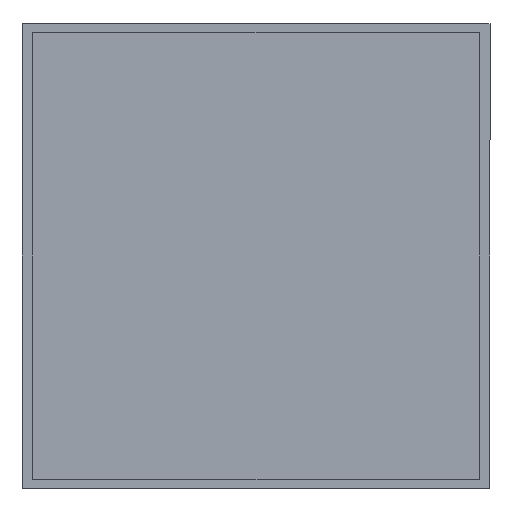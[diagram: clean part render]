
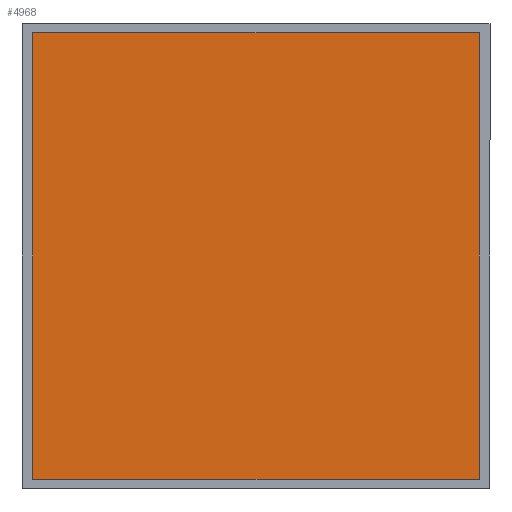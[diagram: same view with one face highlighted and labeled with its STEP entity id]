
A CAD part, front view. The second image highlights one B-rep face of the part: STEP entity #4968.
In plain terms, the highlighted planar face has unit normal (0, -1, 0).
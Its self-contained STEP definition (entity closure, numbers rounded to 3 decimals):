
#249 = DIRECTION ( 'NONE',  ( -1., 0., 0. ) ) ;
#351 = LINE ( 'NONE', #4686, #6628 ) ;
#388 = PLANE ( 'NONE',  #2022 ) ;
#883 = ORIENTED_EDGE ( 'NONE', *, *, #2863, .F. ) ;
#1499 = CARTESIAN_POINT ( 'NONE',  ( 24.524, -2.324, -20.423 ) ) ;
#1851 = LINE ( 'NONE', #5286, #6497 ) ;
#1990 = ORIENTED_EDGE ( 'NONE', *, *, #5935, .F. ) ;
#1998 = ORIENTED_EDGE ( 'NONE', *, *, #3328, .F. ) ;
#2022 = AXIS2_PLACEMENT_3D ( 'NONE', #6174, #3927, #3480 ) ;
#2455 = DIRECTION ( 'NONE',  ( 1., 0., 0. ) ) ;
#2560 = DIRECTION ( 'NONE',  ( 0., 0., -1. ) ) ;
#2677 = LINE ( 'NONE', #1499, #4859 ) ;
#2687 = CARTESIAN_POINT ( 'NONE',  ( -13.476, -2.324, -20.423 ) ) ;
#2832 = CARTESIAN_POINT ( 'NONE',  ( -13.476, -2.324, 17.577 ) ) ;
#2863 = EDGE_CURVE ( 'NONE', #6054, #6149, #6106, .T. ) ;
#3328 = EDGE_CURVE ( 'NONE', #6149, #5604, #351, .T. ) ;
#3480 = DIRECTION ( 'NONE',  ( 0., 0., 1. ) ) ;
#3585 = EDGE_CURVE ( 'NONE', #5604, #3845, #2677, .T. ) ;
#3845 = VERTEX_POINT ( 'NONE', #4148 ) ;
#3927 = DIRECTION ( 'NONE',  ( 0., 1., 0. ) ) ;
#4148 = CARTESIAN_POINT ( 'NONE',  ( 24.524, -2.324, -20.423 ) ) ;
#4292 = FACE_OUTER_BOUND ( 'NONE', #4963, .T. ) ;
#4492 = CARTESIAN_POINT ( 'NONE',  ( -13.476, -2.324, -20.423 ) ) ;
#4686 = CARTESIAN_POINT ( 'NONE',  ( -13.476, -2.324, 17.577 ) ) ;
#4859 = VECTOR ( 'NONE', #2560, 1000. ) ;
#4963 = EDGE_LOOP ( 'NONE', ( #883, #1990, #6015, #1998 ) ) ;
#4968 = ADVANCED_FACE ( 'NONE', ( #4292 ), #388, .F. ) ;
#5082 = DIRECTION ( 'NONE',  ( 0., 0., 1. ) ) ;
#5286 = CARTESIAN_POINT ( 'NONE',  ( -13.476, -2.324, -20.423 ) ) ;
#5504 = CARTESIAN_POINT ( 'NONE',  ( 24.524, -2.324, 17.577 ) ) ;
#5550 = VECTOR ( 'NONE', #5082, 1000. ) ;
#5604 = VERTEX_POINT ( 'NONE', #5504 ) ;
#5935 = EDGE_CURVE ( 'NONE', #3845, #6054, #1851, .T. ) ;
#6015 = ORIENTED_EDGE ( 'NONE', *, *, #3585, .F. ) ;
#6054 = VERTEX_POINT ( 'NONE', #2687 ) ;
#6106 = LINE ( 'NONE', #4492, #5550 ) ;
#6149 = VERTEX_POINT ( 'NONE', #2832 ) ;
#6174 = CARTESIAN_POINT ( 'NONE',  ( -13.476, -2.324, 17.577 ) ) ;
#6497 = VECTOR ( 'NONE', #249, 1000. ) ;
#6628 = VECTOR ( 'NONE', #2455, 1000. ) ;
